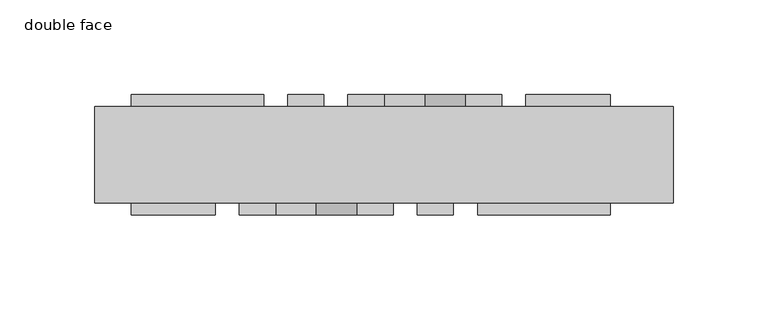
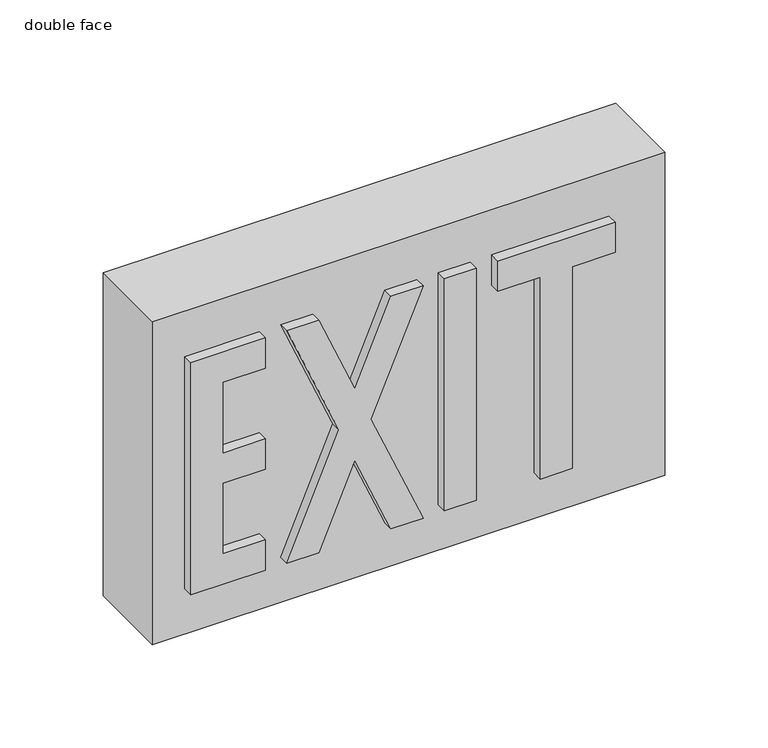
"""IFC4 building model written with IfcOpenShell, lengths in millimetres: light fixture geometry, lt_fx_exit_clng : double face."""

from ifc_helpers import new_model, si_unit, frame, origin, place, context, project, spatial, polyline, outline, extrude, source, transform, mapped, element, save


def double_face_c97266c6(model_context):
    return source(origin(), model_context, "Body", "SweptSolid", [
        extrude(outline(polyline([(2263.775, -86.0541039), (2390.775, -86.0541039), (2390.775, -60.6541039), (2409.825, -60.6541039), (2409.825, -130.5041039), (2390.775, -130.5041039), (2390.775, -105.1041039), (2263.775, -105.1041039), (2263.775, -86.0541039)])), frame((0.0, 25.4, 0.0), z_axis=(0.0, 1.0, 0.0), x_axis=(0.0, 0.0, 1.0)), (0.0, 0.0, 1.0), 6.35),
        extrude(outline(polyline([(-47.9541039, 31.75), (-28.9041039, 31.75), (-28.9041039, 25.4), (-47.9541039, 25.4), (-47.9541039, 31.75)])), frame((0.0, 0.0, 2263.775), z_axis=(0.0, 0.0, 1.0), x_axis=(1.0, 0.0, 0.0)), (0.0, 0.0, 1.0), 146.05),
        extrude(outline(polyline([(2409.825, 45.8244627), (2359.199421, 24.3351794), (2409.825, 2.8458961), (2409.825, -16.2041039), (2336.7599273, 14.8101794), (2263.6948545, -16.2041039), (2263.6948545, 2.8458961), (2314.3204335, 24.3351794), (2263.6948545, 45.8244627), (2263.6948545, 64.8744627), (2336.7599273, 33.8601794), (2409.825, 64.8744627), (2409.825, 45.8244627)])), frame((0.0, 25.4, 0.0), z_axis=(0.0, 1.0, 0.0), x_axis=(0.0, 0.0, 1.0)), (0.0, 0.0, 1.0), 6.35),
        extrude(outline(polyline([(2263.775, 122.0244627), (2409.825, 122.0244627), (2409.825, 77.5744627), (2390.775, 77.5744627), (2390.775, 102.9744627), (2346.325, 102.9744627), (2346.325, 77.5744627), (2327.275, 77.5744627), (2327.275, 102.9744627), (2282.825, 102.9744627), (2282.825, 77.5744627), (2263.775, 77.5744627), (2263.775, 122.0244627)])), frame((0.0, 25.4, 0.0), z_axis=(0.0, 1.0, 0.0), x_axis=(0.0, 0.0, 1.0)), (0.0, 0.0, 1.0), 6.35),
        extrude(outline(polyline([(2263.775, 77.5744627), (2263.775, 96.6244627), (2390.775, 96.6244627), (2390.775, 122.0244627), (2409.825, 122.0244627), (2409.825, 52.1744627), (2390.775, 52.1744627), (2390.775, 77.5744627), (2263.775, 77.5744627)])), frame((0.0, -31.7023553, 0.0), z_axis=(0.0, 1.0, 0.0), x_axis=(0.0, 0.0, 1.0)), (0.0, 0.0, 1.0), 6.3023553),
        extrude(outline(polyline([(39.4744627, -31.75), (20.4244627, -31.75), (20.4244627, -25.4), (39.4744627, -25.4), (39.4744627, -31.75)])), frame((0.0, 0.0, 2263.775), z_axis=(0.0, 0.0, 1.0), x_axis=(1.0, 0.0, 0.0)), (0.0, 0.0, 1.0), 146.05),
        extrude(outline(polyline([(2409.825, -54.3041039), (2409.825, -73.3541039), (2336.7599273, -42.3398206), (2263.6948545, -73.3541039), (2263.6948545, -54.3041039), (2314.3204335, -32.8148206), (2263.6948545, -11.3255373), (2263.6948545, 7.7244627), (2336.7599273, -23.2898206), (2409.825, 7.7244627), (2409.825, -11.3255373), (2359.199421, -32.8148206), (2409.825, -54.3041039)])), frame((0.0, -31.75, 0.0), z_axis=(0.0, 1.0, 0.0), x_axis=(0.0, 0.0, 1.0)), (0.0, 0.0, 1.0), 6.35),
        extrude(outline(polyline([(2263.775, -130.5041039), (2263.775, -86.0541039), (2282.825, -86.0541039), (2282.825, -111.4541039), (2327.275, -111.4541039), (2327.275, -86.0541039), (2346.325, -86.0541039), (2346.325, -111.4541039), (2390.775, -111.4541039), (2390.775, -86.0541039), (2409.825, -86.0541039), (2409.825, -130.5041039), (2263.775, -130.5041039)])), frame((0.0, -31.7023553, 0.0), z_axis=(0.0, 1.0, 0.0), x_axis=(0.0, 0.0, 1.0)), (0.0, 0.0, 1.0), 6.3023553),
        extrude(outline(polyline([(155.2458961, 25.4), (155.2458961, -25.4), (-149.5541039, -25.4), (-149.5541039, 25.4), (155.2458961, 25.4)])), frame((0.0, 0.0, 2235.2), z_axis=(0.0, 0.0, 1.0), x_axis=(1.0, 0.0, 0.0)), (0.0, 0.0, 1.0), 203.2),
    ])


if __name__ == "__main__":
    model = new_model("IFC4")
    model_context = context("Model", 3, world=origin())
    ifc_project = project(units=[si_unit("LENGTHUNIT", "METRE", prefix="MILLI")], contexts=[model_context])
    site = spatial("IfcSite", under=ifc_project)
    building = spatial("IfcBuilding", under=site)
    placement = place(None, origin())
    double_face_shape = double_face_c97266c6(model_context)
    element("IfcLightFixture", 1, ObjectType="lt_fx_exit_clng : double face", at=placement, inside=building, context=model_context, shape_type="MappedRepresentation", body=[
        mapped(double_face_shape, transform((0.0, 0.0, 0.0), x_axis=(1.0, 0.0, 0.0), y_axis=(0.0, 1.0, 0.0), z_axis=(0.0, 0.0, 1.0))),
    ])
    save(model, "model.ifc")
